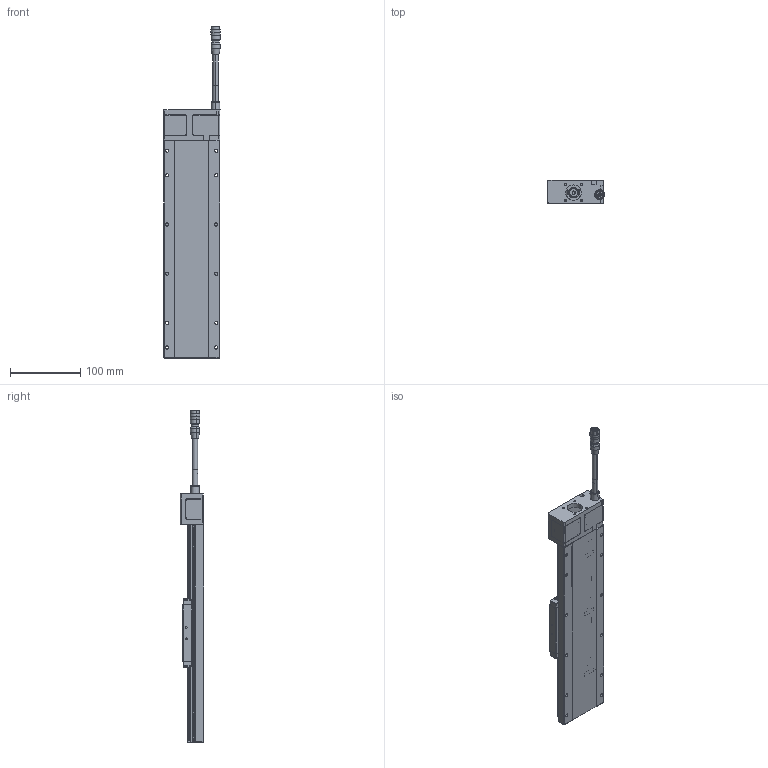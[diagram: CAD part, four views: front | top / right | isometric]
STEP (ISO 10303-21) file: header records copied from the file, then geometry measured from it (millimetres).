
FILE_DESCRIPTION (( 'STEP AP203' ), '1' );
FILE_NAME ('CXN80200-S2?N(µL°¨¹F).S', '2024-01-05T05:18:07', ( '' ), ( '' ), 'SwSTEP 2.0', 'SolidWorks 2019', '' );
FILE_SCHEMA (( 'CONFIG_CONTROL_DESIGN' ));
Length unit declared in the file: millimetre
Products named in the file (4): Group1^CXN80200-S2?N(28框無馬達)_defeature_GMT; CXN80200-S2?N(無馬達); Group2^CXN80200-S2?N(28框無馬達)_defeature_GMT; HR10A-10J-12P_帶線示意
Assembly tree (3 placements, depth 2):
  CXN80200-S2?N(無馬達)
    Group1^CXN80200-S2?N(28框無馬達)_defeature_GMT
    Group2^CXN80200-S2?N(28框無馬達)_defeature_GMT
    HR10A-10J-12P_帶線示意
Bounding box: 80.99 x 33.5 x 472.5 mm (x, y, z)
Volume: 63709.3 mm3; surface area: 155038.2 mm2
Topology: 23 solids, 25 shells, 3585 faces, 9157 edges, 5592 vertices
Faces by surface type: plane 1262, cylinder 1067, cone 494, bspline 324, torus 256, sphere 182
Entity records: 122500 total; most frequent: CARTESIAN_POINT 36404, DIRECTION 18279, ORIENTED_EDGE 17928, EDGE_CURVE 8964, AXIS2_PLACEMENT_3D 6902, VERTEX_POINT 5549, LINE 4475, VECTOR 4475
